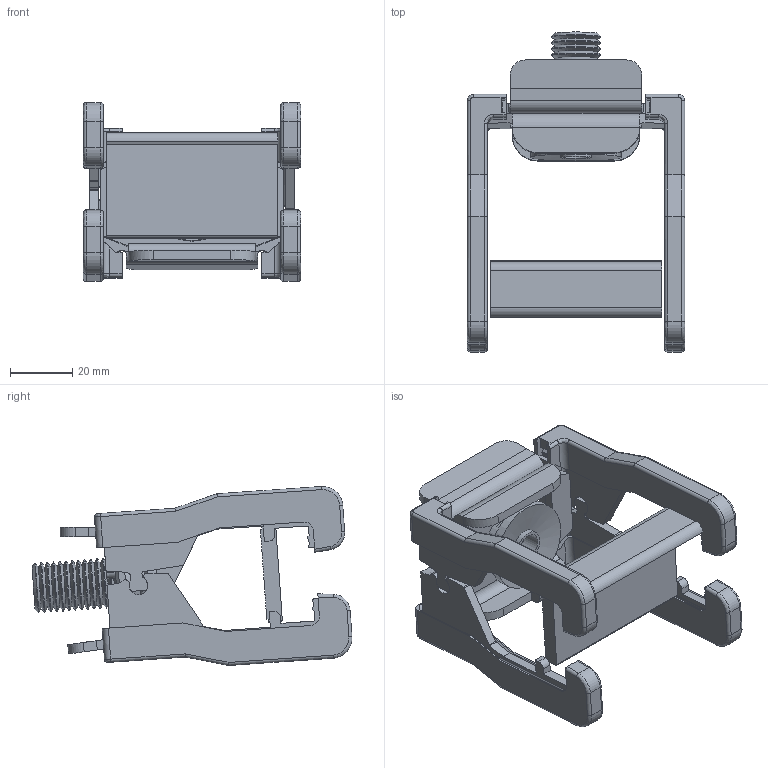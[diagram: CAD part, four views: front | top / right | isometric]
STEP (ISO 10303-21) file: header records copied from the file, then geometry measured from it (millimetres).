
FILE_DESCRIPTION (( 'STEP AP203' ), '1' );
FILE_NAME ('54069.STEP', '2021-08-13T08:35:27', ( '' ), ( '' ), 'SwSTEP 2.0', 'SolidWorks 2017', '' );
FILE_SCHEMA (( 'CONFIG_CONTROL_DESIGN' ));
Length unit declared in the file: millimetre
Products named in the file (2): 54069
Bounding box: 70 x 102.99 x 57.62 mm (x, y, z)
Volume: 60653.5 mm3; surface area: 53506.9 mm2
Topology: 12 solids, 12 shells, 877 faces, 2431 edges, 1560 vertices
Faces by surface type: plane 473, cylinder 284, bspline 60, cone 56, torus 4
Full cylindrical faces by diameter (mm): 8 x1, 10 x2, 16 x19, 19 x1, 29 x1
Entity records: 29293 total; most frequent: CARTESIAN_POINT 7446, ORIENTED_EDGE 4632, DIRECTION 4392, EDGE_CURVE 2316, VECTOR 1580, LINE 1580, VERTEX_POINT 1520, AXIS2_PLACEMENT_3D 1406
